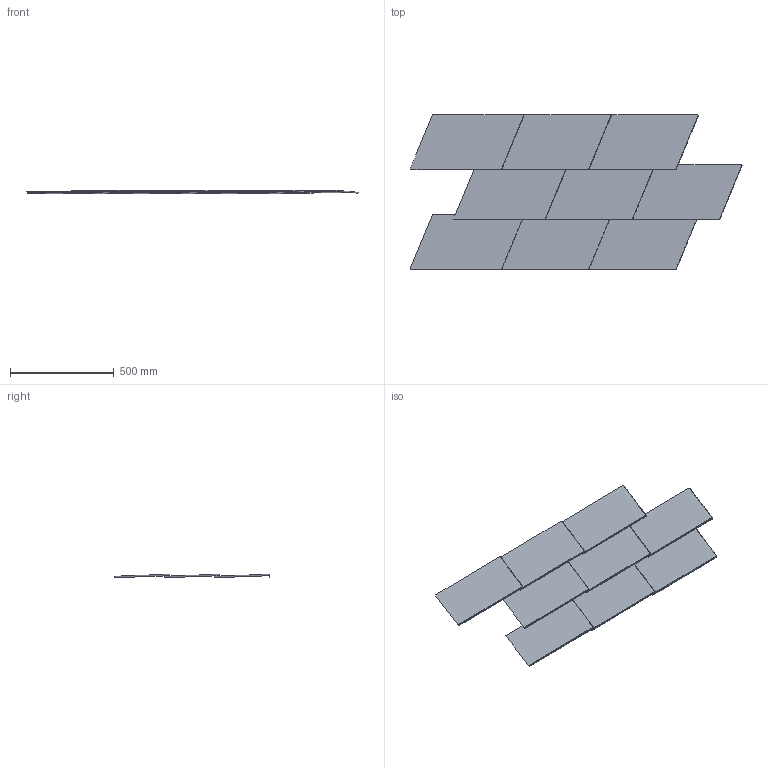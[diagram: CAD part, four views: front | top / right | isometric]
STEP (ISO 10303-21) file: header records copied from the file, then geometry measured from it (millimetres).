
FILE_DESCRIPTION(/* description */ (''),/* implementation_level */ '2;1');
FILE_NAME(/* name */ 'PREFA_~1',/* time_stamp */ '2020-07-21T16:26:57+02:00',/* author */ (''),/* organization */ (''),/* preprocessor_version */ 'ST-DEVELOPER v15',/* originating_system */ '',/* authorisation */ '');
FILE_SCHEMA (('AUTOMOTIVE_DESIGN'));
Length unit declared in the file: millimetre
Products named in the file (1): Document
Bounding box: 1598.95 x 746.1 x 17.06 mm (x, y, z)
Surface area: 1093792.4 mm2 (no closed solid volume)
Topology: 0 solids, 45 shells, 45 faces, 325 edges, 335 vertices
Faces by surface type: bspline 27, plane 18
Entity records: 3483 total; most frequent: CARTESIAN_POINT 1598, ORIENTED_EDGE 315, EDGE_CURVE 315, VERTEX_POINT 315, B_SPLINE_CURVE_WITH_KNOTS 217, PRESENTATION_LAYER_ASSIGNMENT 55, COLOUR_RGB 45, FILL_AREA_STYLE_COLOUR 45
